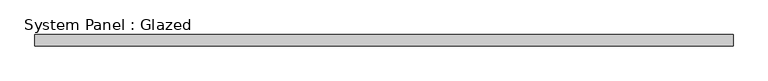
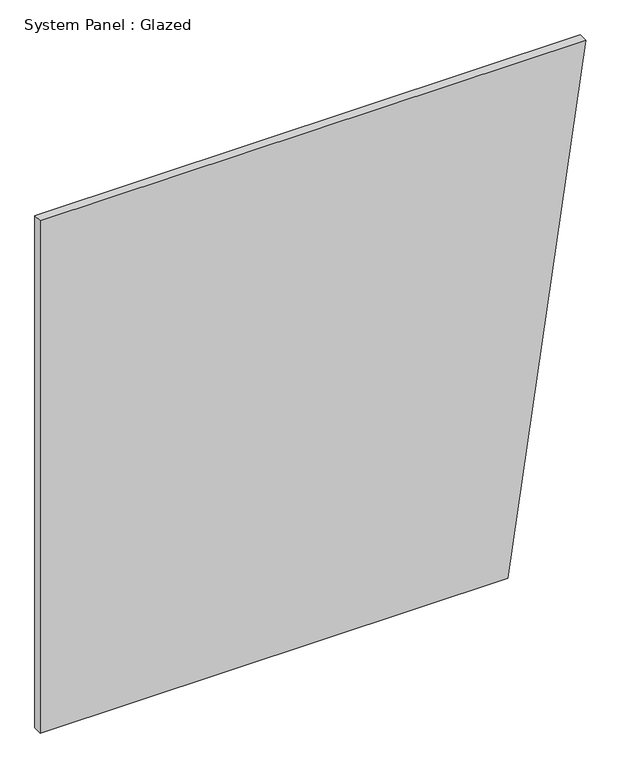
"""IFC4 building model written with IfcOpenShell, lengths in millimetres: plate geometry, System Panel : Glazed."""

from ifc_helpers import new_model, si_unit, frame, origin, place, context, project, spatial, polyline, outline, extrude, source, transform, mapped, element, save


def system_panel_glazed_1f5c7d6d(model_context):
    return source(origin(), model_context, "Body", "SweptSolid", [
        extrude(outline(polyline([(0.0, -767.4820144), (0.0, 548.2014388), (1524.0, 767.4820144), (1524.0, -767.4820143), (0.0, -767.4820144)])), frame((0.0, 19.05, 0.0), z_axis=(0.0, 1.0, 0.0), x_axis=(0.0, 0.0, 1.0)), (0.0, 0.0, 1.0), 25.4),
    ])


if __name__ == "__main__":
    model = new_model("IFC4")
    model_context = context("Model", 3, world=origin())
    ifc_project = project(units=[si_unit("LENGTHUNIT", "METRE", prefix="MILLI")], contexts=[model_context])
    site = spatial("IfcSite", under=ifc_project)
    building = spatial("IfcBuilding", under=site)
    placement = place(None, origin())
    system_panel_glazed_shape = system_panel_glazed_1f5c7d6d(model_context)
    element("IfcPlate", 1, ObjectType="System Panel : Glazed", at=placement, inside=building, context=model_context, shape_type="MappedRepresentation", body=[
        mapped(system_panel_glazed_shape, transform((0.0, 0.0, 0.0), x_axis=(1.0, 0.0, 0.0), y_axis=(0.0, 1.0, 0.0), z_axis=(0.0, 0.0, 1.0))),
    ])
    save(model, "model.ifc")
